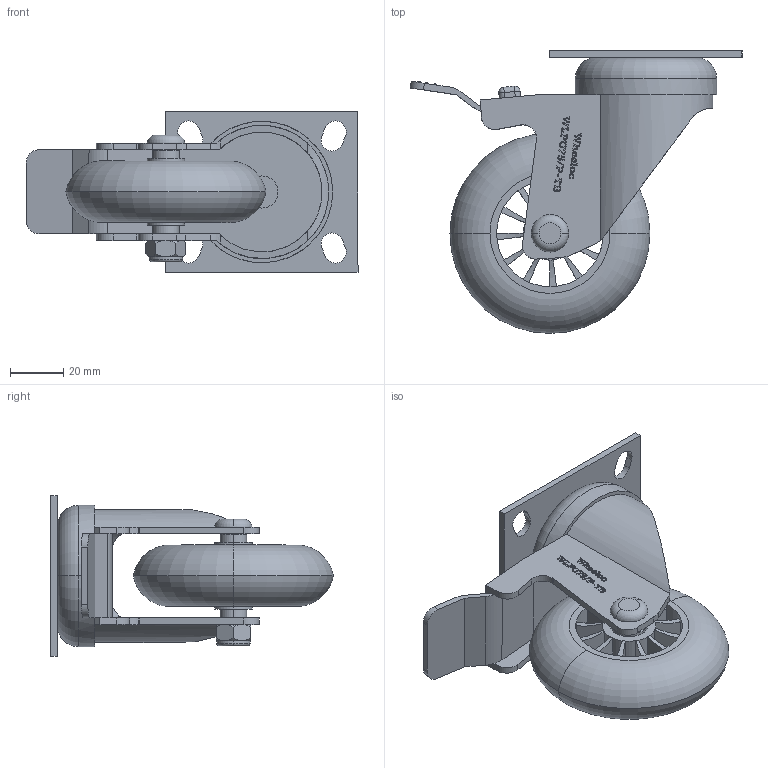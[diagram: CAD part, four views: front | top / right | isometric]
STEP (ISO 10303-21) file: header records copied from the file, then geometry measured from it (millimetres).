
FILE_DESCRIPTION (( 'STEP AP214' ), '1' );
FILE_NAME ('WLPU75-P-TB.step', '2024-01-18T00:23:51', ( '' ), ( '' ), 'SwSTEP 2.0', 'SolidWorks 2022', '' );
FILE_SCHEMA (( 'AUTOMOTIVE_DESIGN' ));
Length unit declared in the file: millimetre
Products named in the file (6): WLPU75; M8Nyloc-WHITE; 72x60; WL75-P-TB; WLPU75-P-TB; WL bolt 50mm-8mm dia
Assembly tree (5 placements, depth 2):
  WLPU75-P-TB
    WL75-P-TB
    WL bolt 50mm-8mm dia
    WLPU75
    72x60
    M8Nyloc-WHITE
Bounding box: 124.46 x 106 x 60 mm (x, y, z)
Volume: 133485.2 mm3; surface area: 54402.7 mm2
Topology: 5 solids, 5 shells, 651 faces, 1763 edges, 1143 vertices
Faces by surface type: plane 340, cylinder 144, bspline 112, torus 34, cone 14, sphere 7
Entity records: 28671 total; most frequent: CARTESIAN_POINT 12697, ORIENTED_EDGE 3514, DIRECTION 2835, EDGE_CURVE 1757, VERTEX_POINT 1141, VECTOR 1081, LINE 1081, AXIS2_PLACEMENT_3D 877
